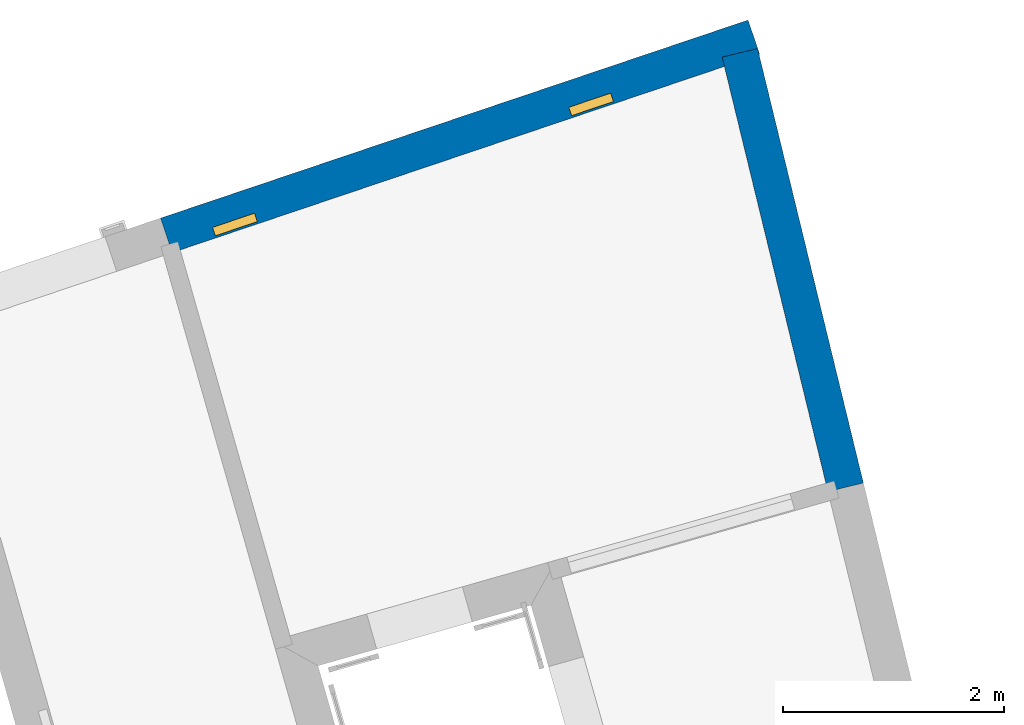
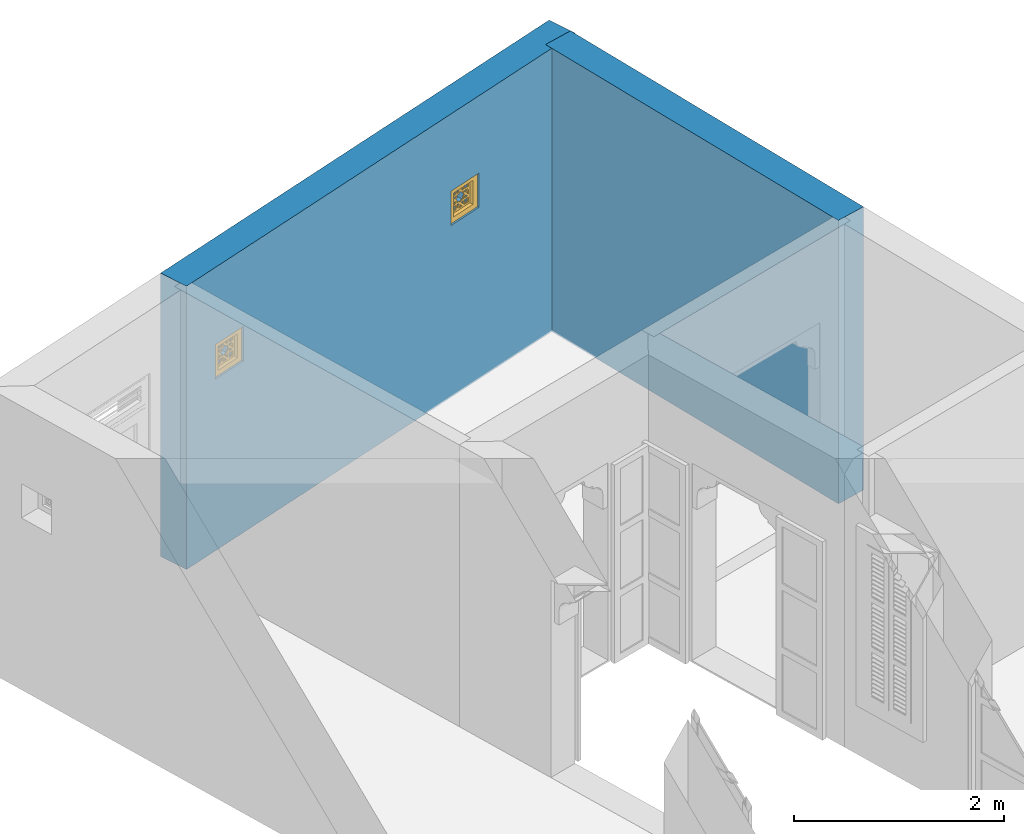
# One storey, part 13 of 14: 2 walls, 2 windows, 2 openings.
"""IFC4 building model written with IfcOpenShell, lengths in metres."""

from ifc_helpers import new_model, si_unit, frame, origin, origin_with_axes, place, context, subcontext, project, spatial, polyline, outline, extrude, faceted_brep, source, transform, mapped, material, layer, layer_set, layer_usage, type_object, type_shapes, element, fill, save


model = new_model("IFC4")

# Units and contexts
model_context = context("Model", 3, world=origin_with_axes())
body_context = subcontext(model_context, "Body", "Model", "MODEL_VIEW")
ifc_project = project(units=[si_unit("PLANEANGLEUNIT", "RADIAN"), si_unit("MASSUNIT", "GRAM", prefix="KILO"), si_unit("FORCEUNIT", "NEWTON", prefix="KILO"), si_unit("LENGTHUNIT", "METRE"), si_unit("AREAUNIT", "SQUARE_METRE"), si_unit("VOLUMEUNIT", "CUBIC_METRE")], contexts=[model_context, model_context])

# Site, building, storey
site_placement = place(None, origin_with_axes())
site = spatial("IfcSite", under=ifc_project, at=site_placement, Name="Site plot-3", CompositionType="ELEMENT")
building_placement = place(None, origin_with_axes())
building = spatial("IfcBuilding", under=site, at=building_placement, Name="Building plot-3", CompositionType="ELEMENT")
storey_placement = place(None, origin_with_axes())
storey = spatial("IfcBuildingStorey", under=building, at=storey_placement, Name="plot-3 0", CompositionType="ELEMENT", Elevation=0.0)

# Wall, openings, windows
ifc_material_1 = material(Name="Masonry")
ifc_layer_1 = layer(ifc_material_1, 0.33, ventilated=False)
ifc_layer_set_1 = layer_set([ifc_layer_1], Name="exterior_0.08_0.25")
ifc_layer_usage_1 = layer_usage(ifc_layer_set_1, "AXIS2", "POSITIVE", -0.25)
wall_type_1 = type_object("IfcWallType", Name="exterior_0.08_0.25", PredefinedType="SOLIDWALL", material=ifc_layer_set_1)
wall_1_placement = place(storey_placement, frame((14.1015594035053, 30.4852680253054, 0.0), z_axis=(0.0, 0.0, 1.0), x_axis=(-0.947598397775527, -0.319464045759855, 0.0)))
wall_1 = element("IfcWall", 1, at=wall_1_placement, inside=storey, type_object=wall_type_1, material=ifc_layer_usage_1, Name="exterior", context=body_context, shape_type="SweptSolid", body=[
    extrude(outline(polyline([(-0.250000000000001, 0.0800000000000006), (-0.25, -0.25), (5.35850276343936, -0.25), (5.35850276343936, 0.0799999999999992), (-0.250000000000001, 0.0800000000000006)])), origin_with_axes(), (0.0, 0.0, 1.0), 3.3),
])
opening_1_placement = place(wall_1_placement, frame((1.13962569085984, 0.0, 2.0)))
opening_1 = element("IfcOpeningElement", 2, at=opening_1_placement, cuts=wall_1, Name="My Opening", ObjectType="Opening", context=body_context, shape_type="SweptSolid", body=[
    extrude(outline(polyline([(0.0, -0.270000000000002), (0.4, -0.270000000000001), (0.400000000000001, 1.1), (1.77635683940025e-15, 1.1), (0.0, -0.270000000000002)])), origin_with_axes(), (0.0, 0.0, 1.0), 0.4),
])
opening_2_placement = place(wall_1_placement, frame((4.53962569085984, 0.0, 2.0)))
opening_2 = element("IfcOpeningElement", 3, at=opening_2_placement, cuts=wall_1, Name="My Opening", ObjectType="Opening", context=body_context, shape_type="SweptSolid", body=[
    extrude(outline(polyline([(0.0, -0.270000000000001), (0.399999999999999, -0.270000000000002), (0.4, 1.1), (8.88178419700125e-16, 1.1), (0.0, -0.270000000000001)])), origin_with_axes(), (0.0, 0.0, 1.0), 0.4),
])
window_type = type_object("IfcWindowType", Name="barred_window", PartitioningType="DOUBLE_PANEL_HORIZONTAL", PredefinedType="NOTDEFINED")
shared_shape = source(origin(), body_context, "Body", "Brep", [
    faceted_brep([(0.4, 0.25, 0.4), (0.0, 0.25, 0.4), (0.06, 0.25, 0.34), (0.34, 0.25, 0.34), (0.06, 0.33, 0.34), (0.34, 0.33, 0.34), (0.34, 0.25, 0.06), (0.4, 0.25, 0.0), (0.4, 0.33, 0.4), (0.0, 0.33, 0.4), (0.0, 0.25, 0.0), (0.06, 0.25, 0.06), (0.06, 0.33, 0.06), (0.34, 0.33, 0.06), (0.4, 0.33, 0.0), (0.0, 0.33, 0.0), (0.136152, 0.28, 0.08), (0.08, 0.28, 0.08), (0.06, 0.28, 0.06), (0.136152, 0.28, 0.06), (0.136152, 0.29, 0.08), (0.08, 0.29, 0.08), (0.06, 0.28, 0.136152), (0.08, 0.28, 0.136152), (0.06, 0.29, 0.06), (0.136152, 0.29, 0.06), (0.170294, 0.28, 0.08), (0.170294, 0.28, 0.06), (0.136152, 0.28, 0.136152), (0.136152, 0.29, 0.136152), (0.08, 0.29, 0.136152), (0.06, 0.29, 0.136152), (0.08, 0.28, 0.170294), (0.06, 0.28, 0.170294), (0.170294, 0.29, 0.06), (0.229706, 0.28, 0.08), (0.229706, 0.28, 0.06), (0.156152, 0.28, 0.094142), (0.156152, 0.28, 0.136152), (0.185858, 0.28, 0.123848), (0.185858, 0.29, 0.123848), (0.156152, 0.29, 0.094142), (0.156152, 0.29, 0.136152), (0.229706, 0.29, 0.08), (0.170294, 0.29, 0.08), (0.2, 0.28, 0.109706), (0.2, 0.29, 0.109706), (0.06, 0.29, 0.170294), (0.094142, 0.28, 0.156152), (0.08, 0.28, 0.229706), (0.06, 0.28, 0.229706), (0.229706, 0.29, 0.06), (0.263848, 0.28, 0.08), (0.263848, 0.28, 0.06), (0.156152, 0.28, 0.156152), (0.136152, 0.28, 0.156152), (0.173553, 0.28, 0.136152), (0.173553, 0.29, 0.136152), (0.156152, 0.29, 0.156152), (0.136152, 0.29, 0.156152), (0.094142, 0.29, 0.156152), (0.08, 0.29, 0.170294), (0.06, 0.29, 0.229706), (0.123848, 0.28, 0.185858), (0.109706, 0.28, 0.2), (0.08, 0.29, 0.229706), (0.08, 0.28, 0.263848), (0.06, 0.28, 0.263848), (0.263848, 0.29, 0.06), (0.2, 0.28, 0.13799), (0.214142, 0.28, 0.123848), (0.34, 0.28, 0.06), (0.32, 0.28, 0.08), (0.181838, 0.28, 0.156152), (0.136152, 0.28, 0.173553), (0.156152, 0.28, 0.181838), (0.181838, 0.29, 0.156152), (0.2, 0.29, 0.13799), (0.214142, 0.29, 0.123848), (0.136152, 0.29, 0.173553), (0.156152, 0.29, 0.181838), (0.243848, 0.28, 0.094142), (0.243848, 0.29, 0.094142), (0.263848, 0.28, 0.136152), (0.263848, 0.29, 0.08), (0.263848, 0.29, 0.136152), (0.32, 0.29, 0.08), (0.243848, 0.28, 0.136152), (0.243848, 0.29, 0.136152), (0.06, 0.29, 0.263848), (0.123848, 0.29, 0.185858), (0.13799, 0.28, 0.2), (0.123848, 0.28, 0.214142), (0.109706, 0.29, 0.2), (0.094142, 0.28, 0.243848), (0.08, 0.28, 0.32), (0.06, 0.28, 0.34), (0.34, 0.29, 0.06), (0.218162, 0.28, 0.156152), (0.226447, 0.28, 0.136152), (0.34, 0.28, 0.229706), (0.32, 0.28, 0.229706), (0.32, 0.28, 0.170294), (0.32, 0.28, 0.136152), (0.218162, 0.29, 0.156152), (0.226447, 0.29, 0.136152), (0.13799, 0.29, 0.2), (0.32, 0.29, 0.136152), (0.08, 0.29, 0.263848), (0.06, 0.29, 0.34), (0.136152, 0.28, 0.226447), (0.156152, 0.28, 0.218162), (0.094142, 0.29, 0.243848), (0.123848, 0.29, 0.214142), (0.136152, 0.28, 0.243848), (0.136152, 0.28, 0.263848), (0.08, 0.29, 0.32), (0.136152, 0.28, 0.34), (0.136152, 0.28, 0.32), (0.34, 0.29, 0.229706), (0.243848, 0.28, 0.156152), (0.263848, 0.28, 0.156152), (0.34, 0.28, 0.263848), (0.32, 0.28, 0.263848), (0.32, 0.29, 0.229706), (0.32, 0.29, 0.170294), (0.290294, 0.28, 0.2), (0.276152, 0.28, 0.185858), (0.305858, 0.28, 0.156152), (0.243848, 0.29, 0.156152), (0.263848, 0.29, 0.156152), (0.305858, 0.29, 0.156152), (0.276152, 0.29, 0.185858), (0.290294, 0.29, 0.2), (0.136152, 0.29, 0.34), (0.136152, 0.29, 0.226447), (0.156152, 0.29, 0.218162), (0.156152, 0.28, 0.243848), (0.136152, 0.29, 0.243848), (0.156152, 0.28, 0.263848), (0.136152, 0.29, 0.263848), (0.136152, 0.29, 0.32), (0.170294, 0.28, 0.32), (0.170294, 0.28, 0.34), (0.34, 0.29, 0.263848), (0.243848, 0.28, 0.181838), (0.263848, 0.28, 0.173553), (0.34, 0.28, 0.34), (0.32, 0.28, 0.32), (0.305858, 0.28, 0.243848), (0.276152, 0.28, 0.214142), (0.26201, 0.28, 0.2), (0.243848, 0.29, 0.181838), (0.263848, 0.29, 0.173553), (0.26201, 0.29, 0.2), (0.276152, 0.29, 0.214142), (0.32, 0.29, 0.263848), (0.170294, 0.29, 0.34), (0.156152, 0.29, 0.243848), (0.173553, 0.28, 0.263848), (0.181838, 0.28, 0.243848), (0.156152, 0.28, 0.305858), (0.229706, 0.28, 0.32), (0.229706, 0.28, 0.34), (0.34, 0.29, 0.34), (0.263848, 0.28, 0.34), (0.263848, 0.28, 0.32), (0.32, 0.29, 0.32), (0.263848, 0.28, 0.263848), (0.263848, 0.28, 0.243848), (0.305858, 0.29, 0.243848), (0.263848, 0.28, 0.226447), (0.243848, 0.28, 0.218162), (0.243848, 0.29, 0.218162), (0.263848, 0.29, 0.226447), (0.156152, 0.29, 0.263848), (0.170294, 0.29, 0.32), (0.229706, 0.29, 0.34), (0.181838, 0.29, 0.243848), (0.173553, 0.29, 0.263848), (0.185858, 0.28, 0.276152), (0.2, 0.28, 0.26201), (0.156152, 0.29, 0.305858), (0.229706, 0.29, 0.32), (0.263848, 0.29, 0.34), (0.263848, 0.29, 0.32), (0.263848, 0.29, 0.263848), (0.243848, 0.28, 0.243848), (0.243848, 0.28, 0.263848), (0.263848, 0.29, 0.243848), (0.243848, 0.29, 0.243848), (0.2, 0.29, 0.26201), (0.185858, 0.29, 0.276152), (0.214142, 0.28, 0.276152), (0.218162, 0.28, 0.243848), (0.226447, 0.28, 0.263848), (0.243848, 0.28, 0.305858), (0.2, 0.28, 0.290294), (0.2, 0.29, 0.290294), (0.243848, 0.29, 0.263848), (0.218162, 0.29, 0.243848), (0.214142, 0.29, 0.276152), (0.226447, 0.29, 0.263848), (0.243848, 0.29, 0.305858)], [[[0, 1, 2, 3]], [[3, 2, 4, 5]], [[3, 6, 7, 0]], [[1, 0, 8, 9]], [[1, 10, 11, 2]], [[2, 11, 12, 4]], [[9, 8, 5, 4]], [[6, 3, 5, 13]], [[6, 11, 10, 7]], [[0, 7, 14, 8]], [[10, 1, 9, 15]], [[11, 6, 13, 12]], [[4, 12, 15, 9]], [[8, 14, 13, 5]], [[7, 10, 15, 14]], [[12, 13, 14, 15]], [[16, 17, 18, 19]], [[17, 16, 20, 21]], [[22, 18, 17, 23]], [[19, 18, 24, 25]], [[26, 16, 19, 27]], [[16, 28, 29, 20]], [[21, 20, 25, 24]], [[23, 17, 21, 30]], [[18, 22, 31, 24]], [[23, 32, 33, 22]], [[27, 19, 25, 34]], [[35, 26, 27, 36]], [[28, 16, 37, 38]], [[37, 39, 40, 41]], [[38, 37, 41, 42]], [[20, 29, 42, 41]], [[26, 35, 43, 44]], [[45, 26, 44, 46]], [[20, 44, 34, 25]], [[28, 23, 30, 29]], [[24, 31, 30, 21]], [[22, 33, 47, 31]], [[48, 32, 23]], [[32, 49, 50, 33]], [[36, 27, 34, 51]], [[39, 37, 26, 45]], [[52, 35, 36, 53]], [[38, 54, 55, 28]], [[39, 56, 57, 40]], [[41, 40, 46, 44]], [[56, 38, 42, 57]], [[58, 42, 29, 59]], [[35, 45, 46, 43]], [[44, 43, 51, 34]], [[23, 28, 55, 48]], [[29, 30, 60, 59]], [[61, 30, 31, 47]], [[33, 50, 62, 47]], [[48, 63, 64, 32]], [[49, 32, 61, 65]], [[49, 66, 67, 50]], [[53, 36, 51, 68]], [[69, 39, 45, 70]], [[53, 71, 72, 52]], [[73, 54, 38, 56]], [[74, 55, 54, 75]], [[56, 39, 69, 73]], [[40, 57, 76, 77]], [[40, 77, 78, 46]], [[58, 76, 57, 42]], [[59, 79, 80, 58]], [[45, 35, 81, 70]], [[43, 46, 78, 82]], [[83, 52, 84, 85]], [[82, 84, 43]], [[52, 72, 86, 84]], [[43, 84, 68, 51]], [[44, 20, 41]], [[70, 81, 82, 78]], [[81, 87, 88, 82]], [[48, 55, 59, 60]], [[61, 60, 30]], [[65, 61, 47, 62]], [[50, 67, 89, 62]], [[63, 48, 60, 90]], [[63, 91, 92, 64]], [[32, 64, 93, 61]], [[64, 49, 65, 93]], [[94, 66, 49]], [[66, 95, 96, 67]], [[71, 53, 68, 97]], [[98, 69, 70, 99]], [[81, 52, 83, 87]], [[72, 71, 100]], [[100, 101, 102]], [[103, 72, 100]], [[100, 102, 103]], [[54, 73, 76, 58]], [[55, 74, 79, 59]], [[75, 54, 58, 80]], [[63, 74, 75, 91]], [[73, 69, 77, 76]], [[77, 104, 105, 78]], [[79, 90, 106, 80]], [[84, 82, 88, 85]], [[103, 83, 85, 107]], [[72, 103, 107, 86]], [[97, 68, 84, 86]], [[99, 70, 78, 105]], [[87, 99, 105, 88]], [[90, 60, 61, 93]], [[108, 65, 62, 89]], [[67, 96, 109, 89]], [[74, 63, 90, 79]], [[110, 92, 91, 111]], [[49, 64, 92, 94]], [[93, 65, 112, 113]], [[94, 114, 115, 66]], [[95, 66, 108, 116]], [[117, 96, 95, 118]], [[100, 71, 97, 119]], [[69, 98, 104, 77]], [[99, 87, 120, 98]], [[87, 83, 121, 120]], [[101, 100, 122, 123]], [[102, 101, 124, 125]], [[121, 83, 103]], [[103, 102, 126]], [[126, 127, 128]], [[128, 121, 103]], [[103, 126, 128]], [[91, 75, 80, 106]], [[88, 105, 104, 129]], [[106, 90, 93, 113]], [[85, 88, 129, 130]], [[107, 85, 130]], [[131, 132, 133]], [[107, 130, 131]], [[133, 125, 107]], [[107, 131, 133]], [[124, 119, 97]], [[97, 86, 107]], [[107, 125, 124]], [[97, 107, 124]], [[108, 112, 65]], [[116, 108, 89, 109]], [[96, 117, 134, 109]], [[92, 110, 135, 113]], [[111, 91, 106, 136]], [[114, 110, 111, 137]], [[94, 92, 113, 112]], [[114, 94, 112, 138]], [[114, 137, 139, 115]], [[66, 115, 140, 108]], [[118, 95, 116, 141]], [[118, 142, 143, 117]], [[122, 100, 119, 144]], [[98, 120, 129, 104]], [[145, 120, 121, 146]], [[122, 147, 148, 123]], [[123, 149, 101]], [[101, 126, 133, 124]], [[126, 102, 125, 133]], [[127, 126, 150, 151]], [[128, 127, 132, 131]], [[121, 128, 131, 130]], [[113, 135, 136, 106]], [[129, 152, 153, 130]], [[133, 132, 154, 155]], [[119, 124, 156, 144]], [[138, 112, 108, 140]], [[109, 134, 141, 116]], [[117, 143, 157, 134]], [[110, 114, 138, 135]], [[137, 111, 136, 158]], [[159, 139, 137, 160]], [[118, 115, 139, 161]], [[115, 118, 141, 140]], [[161, 142, 118]], [[162, 163, 143, 142]], [[147, 122, 144, 164]], [[120, 145, 152, 129]], [[146, 121, 130, 153]], [[146, 127, 151, 145]], [[147, 165, 166, 148]], [[123, 148, 167, 156]], [[149, 123, 168, 169]], [[149, 150, 126, 101]], [[155, 170, 124, 133]], [[151, 150, 171, 172]], [[127, 146, 153, 132]], [[135, 138, 158, 136]], [[132, 153, 152, 154]], [[155, 154, 173, 174]], [[170, 156, 124]], [[164, 144, 156, 167]], [[158, 138, 140, 175]], [[176, 141, 134, 157]], [[143, 163, 177, 157]], [[160, 137, 158, 178]], [[139, 159, 179, 175]], [[180, 159, 160, 181]], [[161, 139, 175, 182]], [[140, 141, 182, 175]], [[166, 165, 163, 162]], [[162, 142, 176, 183]], [[165, 147, 164, 184]], [[145, 151, 154, 152]], [[148, 166, 185, 167]], [[156, 186, 168, 123]], [[187, 169, 168, 188]], [[149, 169, 189, 170]], [[150, 149, 170, 155]], [[171, 150, 155, 174]], [[171, 169, 187, 172]], [[151, 172, 173, 154]], [[189, 174, 173, 190]], [[156, 170, 189, 186]], [[184, 164, 167, 185]], [[175, 179, 178, 158]], [[176, 182, 141]], [[177, 183, 176, 157]], [[163, 165, 184, 177]], [[181, 160, 178, 191]], [[159, 180, 192, 179]], [[180, 161, 182, 192]], [[193, 181, 194, 195]], [[196, 162, 197, 193]], [[180, 197, 142, 161]], [[197, 180, 181, 193]], [[142, 197, 198, 176]], [[162, 196, 166]], [[35, 52, 81]], [[197, 162, 183, 198]], [[185, 166, 168, 186]], [[196, 188, 168, 166]], [[187, 188, 195, 194]], [[169, 171, 174, 189]], [[172, 187, 190, 173]], [[189, 190, 199, 186]], [[184, 185, 183, 177]], [[179, 192, 191, 178]], [[176, 198, 192, 182]], [[194, 181, 191, 200]], [[191, 192, 198, 201]], [[26, 37, 16]], [[193, 195, 202, 201]], [[196, 193, 201, 203]], [[191, 201, 202, 200]], [[183, 203, 201, 198]], [[188, 196, 203, 199]], [[203, 183, 185]], [[199, 203, 185, 186]], [[195, 188, 199, 202]], [[187, 194, 200, 190]], [[199, 190, 200, 202]]]),
])
type_shapes(window_type, [shared_shape])
window_1_placement = place(storey_placement, frame((12.9353966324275, 30.3770501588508, 2.0), z_axis=(0.0, 0.0, 1.0), x_axis=(-0.379039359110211, -0.127785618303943, 0.0)))
window_1 = element("IfcWindow", 4, at=window_1_placement, inside=storey, type_object=window_type, Name="living street window", OverallHeight=0.4, OverallWidth=0.4, context=body_context, shape_type="MappedRepresentation", body=[
    mapped(shared_shape, transform((0.0, 0.0, 0.0), scale=1.0)),
])
fill(opening_1, window_1)
window_2_placement = place(storey_placement, frame((9.71356207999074, 29.2908724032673, 2.0), z_axis=(0.0, 0.0, 1.0), x_axis=(-0.379039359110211, -0.127785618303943, 0.0)))
window_2 = element("IfcWindow", 5, at=window_2_placement, inside=storey, type_object=window_type, Name="living street window", OverallHeight=0.4, OverallWidth=0.4, context=body_context, shape_type="MappedRepresentation", body=[
    mapped(shared_shape, transform((0.0, 0.0, 0.0), scale=1.0)),
])
fill(opening_2, window_2)

# Wall
ifc_material_2 = material(Name="Masonry")
ifc_layer_2 = layer(ifc_material_2, 0.33, ventilated=False)
ifc_layer_set_2 = layer_set([ifc_layer_2], Name="party_0.08_0.25")
ifc_layer_usage_2 = layer_usage(ifc_layer_set_2, "AXIS2", "POSITIVE", -0.25)
wall_type_2 = type_object("IfcWallType", Name="party_0.08_0.25", PredefinedType="SOLIDWALL", material=ifc_layer_set_2)
wall_2_placement = place(storey_placement, frame((15.058744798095, 26.5546957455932, 0.0), z_axis=(0.0, 0.0, 1.0), x_axis=(-0.236608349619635, 0.971605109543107, 0.0)))
element("IfcWall", 6, at=wall_2_placement, inside=storey, type_object=wall_type_2, material=ifc_layer_usage_2, Name="party", context=body_context, shape_type="SweptSolid", body=[
    extrude(outline(polyline([(-1.14973335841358e-15, 0.0800000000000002), (6.2325570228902e-15, -0.249999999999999), (4.04544216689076, -0.249999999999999), (4.04544216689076, 0.0800000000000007), (-1.14973335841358e-15, 0.0800000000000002)])), origin_with_axes(), (0.0, 0.0, 1.0), 3.3),
])

save(model, "model.ifc")
